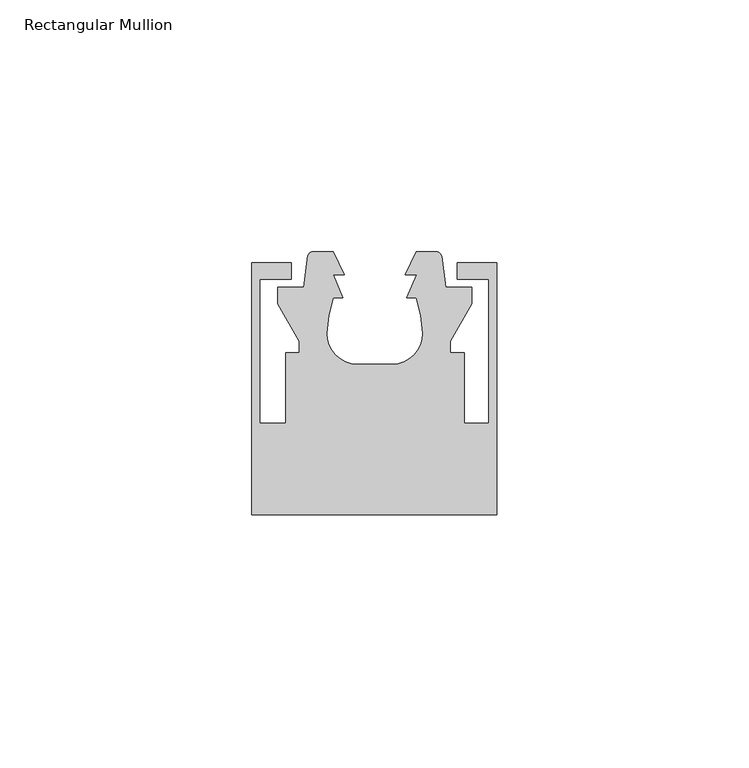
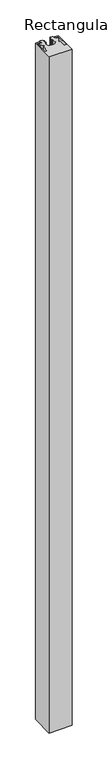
"""IFC4 building model written with IfcOpenShell, lengths in millimetres: member geometry, Rectangular Mullion : Danpal_Airpt."""

from ifc_helpers import new_model, si_unit, point, frame, frame_2d, origin, place, context, project, spatial, polyline, circle_curve, trimmed, segment, composite_curve, outline, extrude, source, transform, mapped, element, save


def rectangular_mullion_d8502604(model_context):
    return source(origin(), model_context, "Body", "SweptSolid", [
        extrude(outline(composite_curve([segment(polyline([(-16.6, -16.4), (-16.6, -19.6), (-22.8, -19.6), (-22.8, -48.2), (-17.7185077, -48.2), (-17.7185077, -34.2), (-14.9766663, -34.2), (-14.9766663, -31.9202845), (-19.2732051, -24.478461), (-19.3, -21.2), (-14.115585, -21.2)]), True, "CONTINUOUS"), segment(trimmed(circle_curve(frame_2d((137.1078499, -38.5534788)), 152.215868), [point((-14.115585, -21.2))], [point((-13.2693482, -14.9660083))], False, "CARTESIAN"), True, "CONTINUOUS"), segment(trimmed(circle_curve(frame_2d((-12.3738214, -15.1064765)), 0.9064765), [point((-13.2693482, -14.9660083))], [point((-12.3738214, -14.2))], False, "CARTESIAN"), True, "CONTINUOUS"), segment(polyline([(-12.3738214, -14.2), (-8.2308667, -14.2), (-6.0782659, -18.7006239), (-8.2858815, -18.7006239), (-6.3614697, -23.2699289), (-8.2778534, -23.2699289)]), True, "CONTINUOUS"), segment(trimmed(circle_curve(frame_2d((16.4332098, -31.142799)), 25.9348941), [point((-8.2778534, -23.2699289))], [point((-9.488241, -30.3078647))], True, "CARTESIAN"), True, "CONTINUOUS"), segment(trimmed(circle_curve(frame_2d((-3.5093751, -30.500445)), 5.9819667), [point((-9.488241, -30.3078647))], [point((-3.5093751, -36.4824117))], True, "CARTESIAN"), True, "CONTINUOUS"), segment(polyline([(-3.5093751, -36.4824117), (3.5093751, -36.4824117)]), True, "CONTINUOUS"), segment(trimmed(circle_curve(frame_2d((3.5093751, -30.500445)), 5.9819667), [point((3.5093751, -36.4824117))], [point((9.488241, -30.3078647))], True, "CARTESIAN"), True, "CONTINUOUS"), segment(trimmed(circle_curve(frame_2d((-16.4332098, -31.142799)), 25.9348941), [point((9.488241, -30.3078647))], [point((8.2778534, -23.2699289))], True, "CARTESIAN"), True, "CONTINUOUS"), segment(polyline([(8.2778534, -23.2699289), (6.3614697, -23.2699289), (8.2858815, -18.7006239), (6.0782659, -18.7006239), (8.2308667, -14.2), (12.2262756, -14.2)]), True, "CONTINUOUS"), segment(trimmed(circle_curve(frame_2d((12.2262756, -15.2788845)), 1.0788845), [point((12.2262756, -14.2))], [point((13.2922905, -15.1127399))], False, "CARTESIAN"), True, "CONTINUOUS"), segment(trimmed(circle_curve(frame_2d((-137.1078499, -38.5534788)), 152.215868), [point((13.2922905, -15.1127399))], [point((14.115585, -21.2))], False, "CARTESIAN"), True, "CONTINUOUS"), segment(polyline([(14.115585, -21.2), (19.3, -21.2), (19.2732051, -24.478461), (14.9766663, -31.9202845), (14.9766663, -34.2), (17.7185077, -34.2), (17.7185077, -48.2), (22.6, -48.2), (22.6, -19.6), (16.4, -19.6), (16.4, -16.4), (24.2, -16.4), (24.2, -66.4), (-24.4, -66.4), (-24.4, -16.4), (-16.6, -16.4)]), True, "CONTINUOUS")], self_intersect=False)), frame((0.0, 0.0, -1500.0), z_axis=(0.0, 0.0, 1.0), x_axis=(1.0, 0.0, 0.0)), (0.0, 0.0, 1.0), 1500.0),
    ])


if __name__ == "__main__":
    model = new_model("IFC4")
    model_context = context("Model", 3, world=origin())
    ifc_project = project(units=[si_unit("LENGTHUNIT", "METRE", prefix="MILLI")], contexts=[model_context])
    site = spatial("IfcSite", under=ifc_project)
    building = spatial("IfcBuilding", under=site)
    placement = place(None, origin())
    rectangular_mullion_shape = rectangular_mullion_d8502604(model_context)
    element("IfcMember", 1, ObjectType="Rectangular Mullion : Danpal_Airpt", at=placement, inside=building, context=model_context, shape_type="MappedRepresentation", body=[
        mapped(rectangular_mullion_shape, transform((0.0, 0.0, 0.0), x_axis=(1.0, 0.0, 0.0), y_axis=(0.0, 1.0, 0.0), z_axis=(0.0, 0.0, 1.0))),
    ])
    save(model, "model.ifc")
